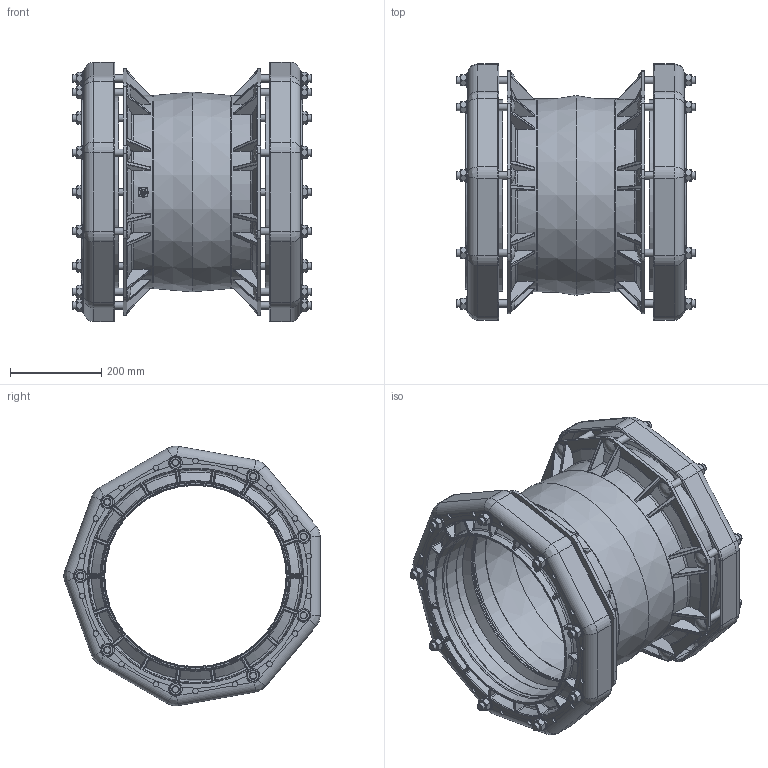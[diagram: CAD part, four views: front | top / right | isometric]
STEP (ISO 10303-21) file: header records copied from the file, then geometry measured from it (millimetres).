
FILE_DESCRIPTION((''),'2;1');
FILE_NAME('P:\Fastrack\54361_VIKING JOHNSON 3D\ULTRAGRIP\Component Parts\Components Built up\Coupling Assembly\350MM-UltraGrip-Coupling-Assembly.stp','2012-05-02T10:37:23',('dcole'),(''),'Autodesk Inventor 2008','Autodesk Inventor 2008','');
FILE_SCHEMA(('AUTOMOTIVE_DESIGN { 1 0 10303 214 1 1 1 1 }'));
Length unit declared in the file: millimetre
Products named in the file (1): 350MM-UltraGrip-Coupling-Assembly
Bounding box: 525 x 560.99 x 568.53 mm (x, y, z)
Volume: 10008548.5 mm3; surface area: 2809236.6 mm2
Topology: 1 solids, 1 shells, 2814 faces, 7522 edges, 4564 vertices
Faces by surface type: plane 859, bspline 801, cylinder 679, cone 382, torus 93
Full cylindrical faces by diameter (mm): 12 x36, 13 x1, 15.8 x36, 16 x18, 30 x18, 36 x18, 397 x2, 399 x4, 419 x2
Entity records: 181059 total; most frequent: CARTESIAN_POINT 113470, ORIENTED_EDGE 14500, DIRECTION 12137, EDGE_CURVE 7250, AXIS2_PLACEMENT_3D 4743, VERTEX_POINT 4480, EDGE_LOOP 3138, STYLED_ITEM 2814
